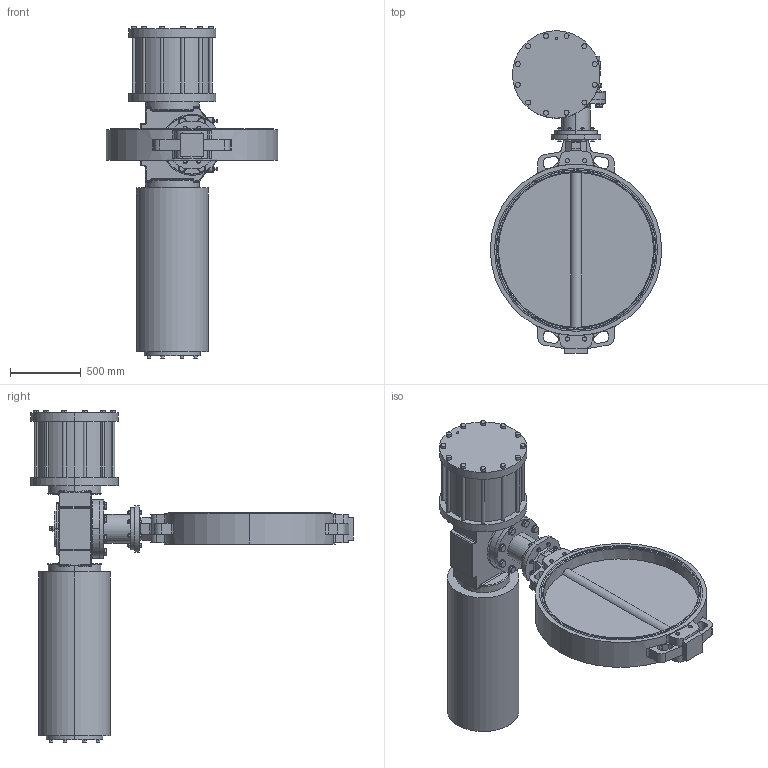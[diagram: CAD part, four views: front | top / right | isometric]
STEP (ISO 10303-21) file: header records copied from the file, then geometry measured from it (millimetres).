
FILE_DESCRIPTION (( 'STEP AP214' ), '1' );
FILE_NAME ('67415.step', '2020-10-23T12:39:56', ( '' ), ( '' ), 'SwSTEP 2.0', 'SolidWorks 2019', '' );
FILE_SCHEMA (( 'AUTOMOTIVE_DESIGN' ));
Length unit declared in the file: millimetre
Products named in the file (12): 6kt-Mu DIN 934_M16; SY01F35-550 SR6; Passfeder DIN 6885 A_20_12x100; U-Scheibe DIN 125 A_M30; 67411; 67702; 67415; U-Scheibe DIN 125 A_M16; Passfeder DIN 6885 B_40_22x140; TW20-1100_M01; 6kt-Schr DIN 933_M16x90; 6kt-Schr DIN 933_M30x70
Assembly tree (54 placements, depth 2):
  67415
    TW20-1100_M01
    SY01F35-550 SR6
    U-Scheibe DIN 125 A_M16  x16
    6kt-Schr DIN 933_M16x90  x8
    67702
    6kt-Mu DIN 934_M16  x8
    6kt-Schr DIN 933_M30x70  x8
    U-Scheibe DIN 125 A_M30  x8
    67411
    Passfeder DIN 6885 B_40_22x140
    Passfeder DIN 6885 A_20_12x100
Bounding box: 1215 x 2285 x 2353 mm (x, y, z)
Volume: 554232894 mm3; surface area: 11148337 mm2
Topology: 56 solids, 56 shells, 1520 faces, 3435 edges, 2110 vertices
Faces by surface type: plane 600, cylinder 564, cone 231, bspline 67, torus 58
Entity records: 32566 total; most frequent: CARTESIAN_POINT 10467, DIRECTION 4516, ORIENTED_EDGE 4082, EDGE_CURVE 2041, AXIS2_PLACEMENT_3D 1829, VERTEX_POINT 1290, EDGE_LOOP 1003, CIRCLE 983
